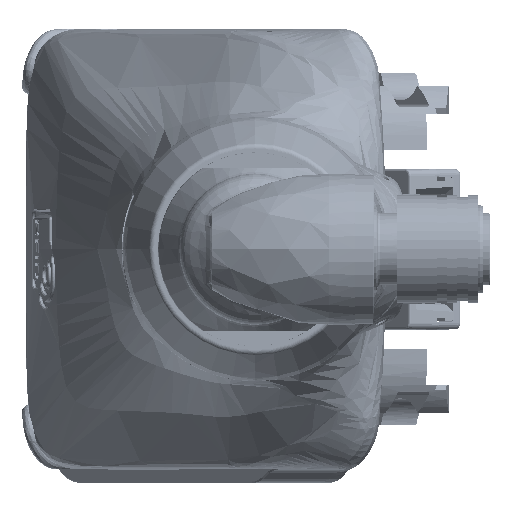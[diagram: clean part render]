
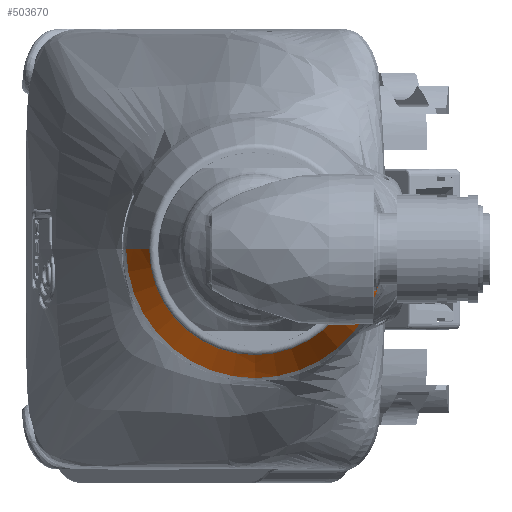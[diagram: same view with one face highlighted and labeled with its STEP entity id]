
A CAD part, left-side view. The second image highlights one B-rep face of the part: STEP entity #503670.
In plain terms, the highlighted free-form (B-spline) face has degree [3, 3] with [7, 4] control points.
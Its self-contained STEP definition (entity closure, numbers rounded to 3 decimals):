
#492595=CARTESIAN_POINT('',(-212.032,0.,0.));
#492596=DIRECTION('',(-1.,0.,0.));
#492597=DIRECTION('',(0.,1.,0.));
#492598=AXIS2_PLACEMENT_3D('',#492595,#492596,#492597);
#492600=CARTESIAN_POINT('',(-178.814,57.153,
0.));
#492601=DIRECTION('',(0.,0.,-1.));
#492602=DIRECTION('',(-0.306,-0.952,0.));
#492603=AXIS2_PLACEMENT_3D('',#492600,#492601,#492602);
#492605=CARTESIAN_POINT('',(-203.255,0.,0.));
#492606=DIRECTION('',(-1.,0.,0.));
#492607=DIRECTION('',(0.,1.,0.));
#492608=AXIS2_PLACEMENT_3D('',#492605,#492606,#492607);
#492610=CARTESIAN_POINT('',(-178.814,-57.153,
0.));
#492611=DIRECTION('',(0.,0.,1.));
#492612=DIRECTION('',(-0.306,0.952,0.));
#492613=AXIS2_PLACEMENT_3D('',#492610,#492611,#492612);
#497331=CARTESIAN_POINT('',(-203.255,19.022,
0.));
#497333=VERTEX_POINT('',#497331);
#497339=CARTESIAN_POINT('',(-203.255,-19.022,
0.));
#497341=VERTEX_POINT('',#497339);
#497358=CARTESIAN_POINT('',(-212.032,15.624,
0.));
#497359=CARTESIAN_POINT('',(-212.032,-15.624,
0.));
#497360=VERTEX_POINT('',#497358);
#497361=VERTEX_POINT('',#497359);
#503632=CARTESIAN_POINT('',(-212.203,-15.515,
0.976));
#503633=CARTESIAN_POINT('',(-209.235,-16.876,
1.062));
#503634=CARTESIAN_POINT('',(-206.188,-18.053,
1.136));
#503635=CARTESIAN_POINT('',(-203.076,-19.042,
1.198));
#503636=CARTESIAN_POINT('',(-212.203,-16.116,
-8.572));
#503637=CARTESIAN_POINT('',(-209.235,-17.529,
-9.324));
#503638=CARTESIAN_POINT('',(-206.188,-18.752,
-9.974));
#503639=CARTESIAN_POINT('',(-203.076,-19.779,
-10.52));
#503640=CARTESIAN_POINT('',(-212.203,-9.567,
-15.546));
#503641=CARTESIAN_POINT('',(-209.235,-10.406,
-16.909));
#503642=CARTESIAN_POINT('',(-206.188,-11.132,
-18.089));
#503643=CARTESIAN_POINT('',(-203.076,-11.741,
-19.079));
#503644=CARTESIAN_POINT('',(-212.203,0.,
-15.546));
#503645=CARTESIAN_POINT('',(-209.235,0.,
-16.909));
#503646=CARTESIAN_POINT('',(-206.188,0.,
-18.089));
#503647=CARTESIAN_POINT('',(-203.076,0.,
-19.079));
#503648=CARTESIAN_POINT('',(-212.203,9.567,
-15.546));
#503649=CARTESIAN_POINT('',(-209.235,10.406,
-16.909));
#503650=CARTESIAN_POINT('',(-206.188,11.132,
-18.089));
#503651=CARTESIAN_POINT('',(-203.076,11.741,
-19.079));
#503652=CARTESIAN_POINT('',(-212.203,16.116,
-8.572));
#503653=CARTESIAN_POINT('',(-209.235,17.529,
-9.324));
#503654=CARTESIAN_POINT('',(-206.188,18.752,
-9.974));
#503655=CARTESIAN_POINT('',(-203.076,19.779,
-10.52));
#503656=CARTESIAN_POINT('',(-212.203,15.515,
0.976));
#503657=CARTESIAN_POINT('',(-209.235,16.876,
1.062));
#503658=CARTESIAN_POINT('',(-206.188,18.053,
1.136));
#503659=CARTESIAN_POINT('',(-203.076,19.042,
1.198));
#503660=(BOUNDED_SURFACE()B_SPLINE_SURFACE(3,3,((#503632,#503633,#503634,
#503635),(#503636,#503637,#503638,#503639),(#503640,#503641,#503642,#503643),(
#503644,#503645,#503646,#503647),(#503648,#503649,#503650,#503651),(#503652,
#503653,#503654,#503655),(#503656,#503657,#503658,#503659)),.UNSPECIFIED.,.F.,
.F.,.F.)B_SPLINE_SURFACE_WITH_KNOTS((4,3,4),(4,4),(0.,1.,2.),(0.,1.),
.UNSPECIFIED.)GEOMETRIC_REPRESENTATION_ITEM()RATIONAL_B_SPLINE_SURFACE(((
1.188,1.187,1.187,1.188),(
0.938,0.937,0.937,0.938),(
0.938,0.937,0.937,0.938),(
1.188,1.187,1.187,1.188),(
0.938,0.937,0.937,0.938),(
0.938,0.937,0.937,0.938),(
1.188,1.187,1.187,1.188)))REPRESENTATION_ITEM('')SURFACE());
#503662=ORIENTED_EDGE('',*,*,#503661,.T.);
#503664=ORIENTED_EDGE('',*,*,#503663,.F.);
#503665=ORIENTED_EDGE('',*,*,#503618,.F.);
#503667=ORIENTED_EDGE('',*,*,#503666,.T.);
#503668=EDGE_LOOP('',(#503662,#503664,#503665,#503667));
#503669=FACE_OUTER_BOUND('',#503668,.F.);
#492599=CIRCLE('',#492598,15.624);
#492604=CIRCLE('',#492603,80.);
#492609=CIRCLE('',#492608,19.022);
#492614=CIRCLE('',#492613,80.);
#503618=EDGE_CURVE('',#497333,#497341,#492609,.T.);
#503661=EDGE_CURVE('',#497360,#497361,#492599,.T.);
#503663=EDGE_CURVE('',#497341,#497361,#492604,.T.);
#503666=EDGE_CURVE('',#497333,#497360,#492614,.T.);
#503670=ADVANCED_FACE('',(#503669),#503660,.T.);
